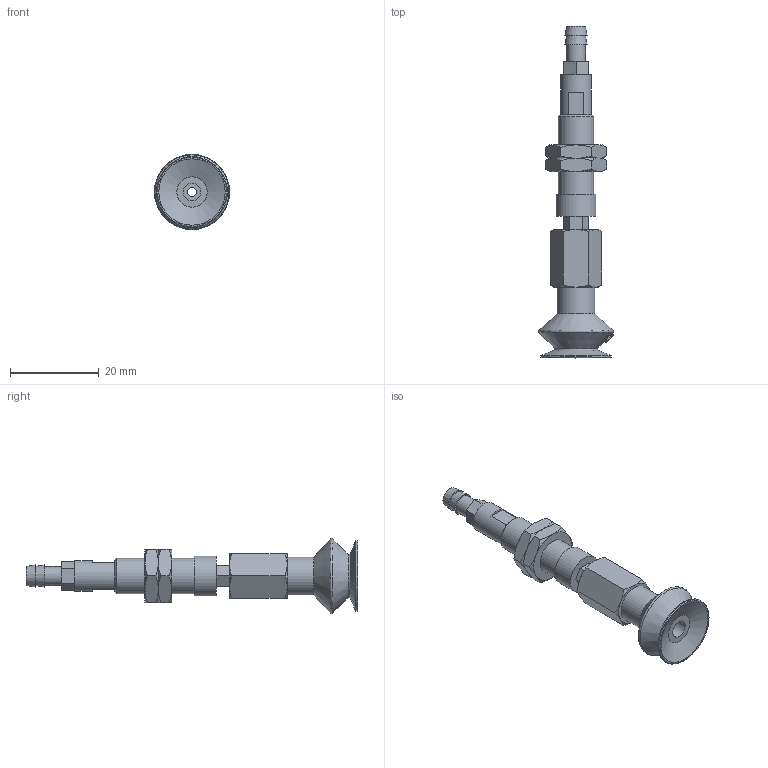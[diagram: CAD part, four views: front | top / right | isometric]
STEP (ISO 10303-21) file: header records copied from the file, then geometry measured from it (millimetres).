
FILE_DESCRIPTION(('STEP AP203'),'1');
FILE_NAME('-T.stp','2025-08-27T00:45:36',(' '),(' '),'Spatial InterOp 3D',' ',' ');
FILE_SCHEMA(('CONFIG_CONTROL_DESIGN'));
Length unit declared in the file: millimetre
Products named in the file (9): BNABPBTH-15A-3-※-T; ADAPTER; NAPATH-10A-3--M; Nut-15A-S-PB; NAPBTH-15A-3-FBODY; BPBG-15A-※; __27; BPBG-15A; T
Assembly tree (9 placements, depth 3):
  BNABPBTH-15A-3-※-T
    ADAPTER
    NAPATH-10A-3--M
    Nut-15A-S-PB  x2
    NAPBTH-15A-3-FBODY
    BPBG-15A-※
      __27
      BPBG-15A
    T
Bounding box: 17 x 75 x 17 mm (x, y, z)
Volume: 4652.5 mm3; surface area: 5145.3 mm2
Topology: 8 solids, 8 shells, 156 faces, 337 edges, 209 vertices
Faces by surface type: plane 66, cone 53, cylinder 18, torus 11, bspline 8
Full cylindrical faces by diameter (mm): 2 x2, 3 x1, 4 x3, 4.134 x1, 4.3 x1, 5 x1, 6 x2, 7 x1, 7.188 x2, 8 x1, 8.5 x1, 9 x1, 16 x1
Entity records: 5079 total; most frequent: CARTESIAN_POINT 2018, DIRECTION 531, ORIENTED_EDGE 472, EDGE_CURVE 236, AXIS2_PLACEMENT_3D 224, EDGE_LOOP 197, VERTEX_POINT 169, FACE_OUTER_BOUND 161
